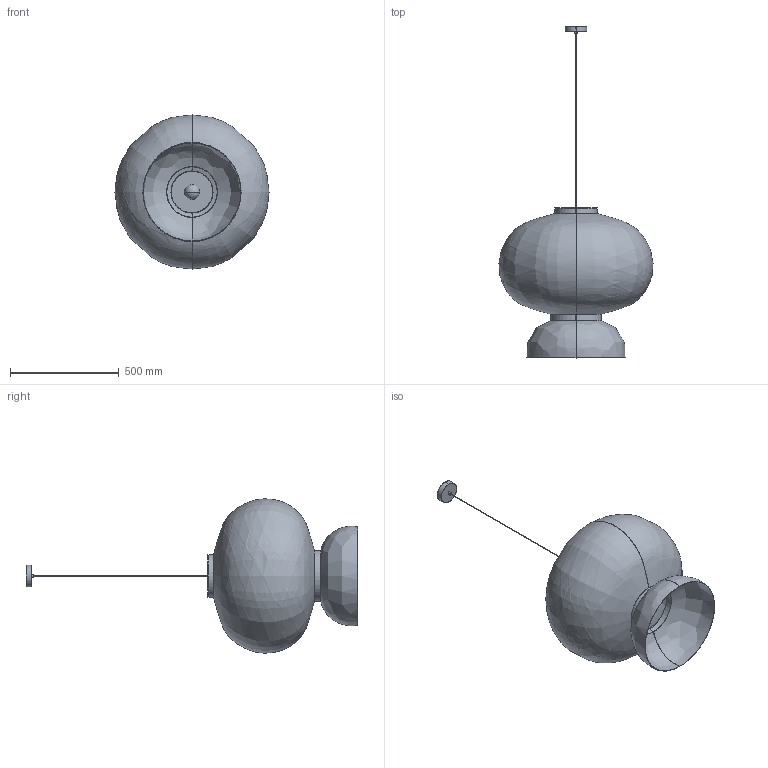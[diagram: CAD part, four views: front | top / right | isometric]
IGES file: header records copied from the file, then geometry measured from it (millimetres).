
Start section: SolidWorks IGES file using analytic representation for surfaces
Global section: file name: F:\燠隴矨\跤藝馱腔3D\Rice Paper Lantern Pendant lamp70X67.IGS; native system: SolidWorks 2022; preprocessor: SolidWorks 2022; author: MyPC; date: 230512.174015; units: millimetre
Bounding box: 708.02 x 1525 x 708.43 mm (x, y, z)
Surface area: 3203714.9 mm2 (no closed solid volume)
Topology: 0 solids, 0 shells, 46 faces, 1092 edges, 1091 vertices
Faces by surface type: bspline 24, revolution 22
